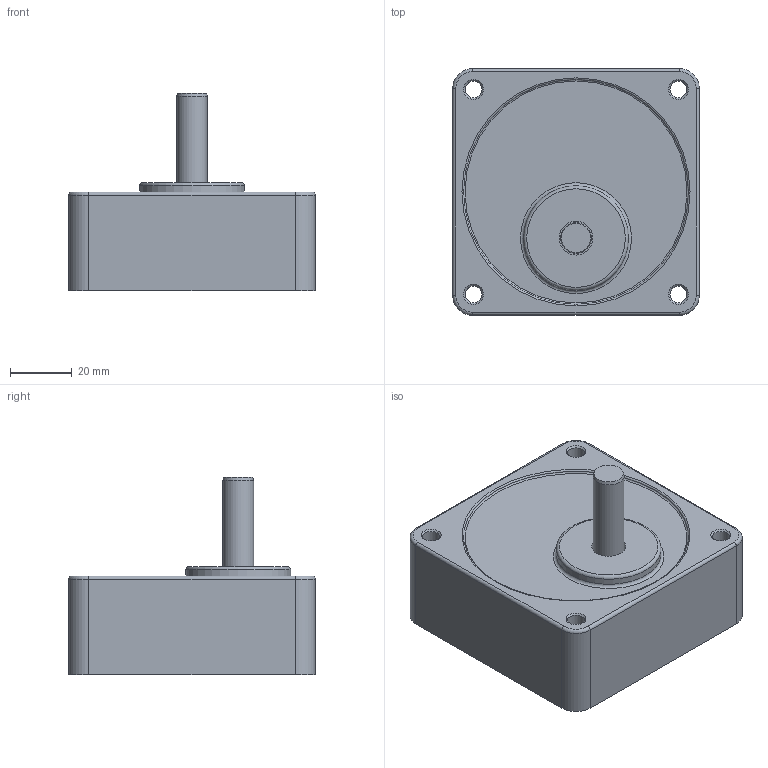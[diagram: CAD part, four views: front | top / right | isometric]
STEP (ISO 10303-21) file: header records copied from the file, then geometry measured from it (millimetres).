
FILE_DESCRIPTION((''),'2;1');
FILE_NAME('D:\STP파일\GEAR HEAD\15W25W\S8SA3~18.stp','2013-05-20T19:13:02',('leebh'),(''),'Autodesk Inventor 2011','Autodesk Inventor 2011','');
FILE_SCHEMA(('AUTOMOTIVE_DESIGN { 1 0 10303 214 1 1 1 1 }'));
Length unit declared in the file: millimetre
Products named in the file (1): S9I90G-T1
Bounding box: 80 x 80 x 64 mm (x, y, z)
Volume: 180547 mm3; surface area: 27612.1 mm2
Topology: 1 solids, 1 shells, 42 faces, 86 edges, 52 vertices
Faces by surface type: cylinder 17, plane 12, torus 8, cone 5
Full cylindrical faces by diameter (mm): 5.5 x4, 8 x1, 10 x1, 11 x1, 34 x1, 73 x1
Entity records: 1062 total; most frequent: DIRECTION 202, CARTESIAN_POINT 163, ORIENTED_EDGE 136, AXIS2_PLACEMENT_3D 91, EDGE_LOOP 74, EDGE_CURVE 68, VERTEX_POINT 52, CIRCLE 48
